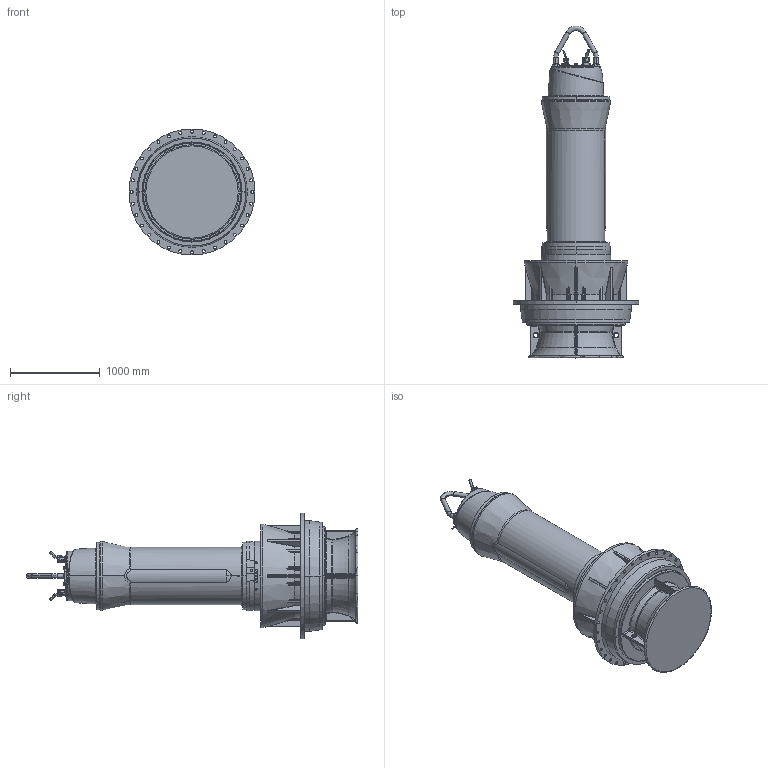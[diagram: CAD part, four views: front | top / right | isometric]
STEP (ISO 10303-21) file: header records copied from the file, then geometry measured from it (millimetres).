
FILE_DESCRIPTION (( 'STEP AP214' ), '1' );
FILE_NAME ('PE7_VUPX1000_DIN_E.STEP', '2017-05-03T11:13:33', ( '' ), ( '' ), 'SwSTEP 2.0', 'SolidWorks 2017', '' );
FILE_SCHEMA (( 'AUTOMOTIVE_DESIGN' ));
Length unit declared in the file: millimetre
Products named in the file (1): PE7_VUPX1000_DIN_E
Bounding box: 1400 x 3688.59 x 1400 mm (x, y, z)
Volume: 1602529053.4 mm3; surface area: 15035854.4 mm2
Topology: 4 solids, 24 shells, 2864 faces, 7127 edges, 4279 vertices
Faces by surface type: plane 895, cylinder 792, bspline 499, torus 349, cone 225, sphere 104
Entity records: 151273 total; most frequent: CARTESIAN_POINT 55853, ORIENTED_EDGE 13914, DIRECTION 12530, EDGE_CURVE 6957, AXIS2_PLACEMENT_3D 4915, VERTEX_POINT 4268, EDGE_LOOP 3123, UNCERTAINTY_MEASURE_WITH_UNIT 2870
